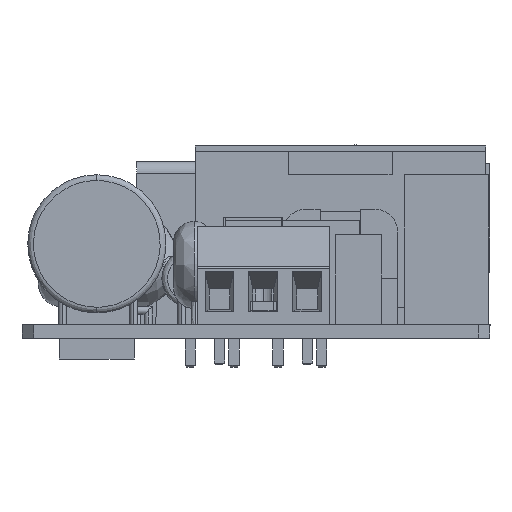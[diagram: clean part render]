
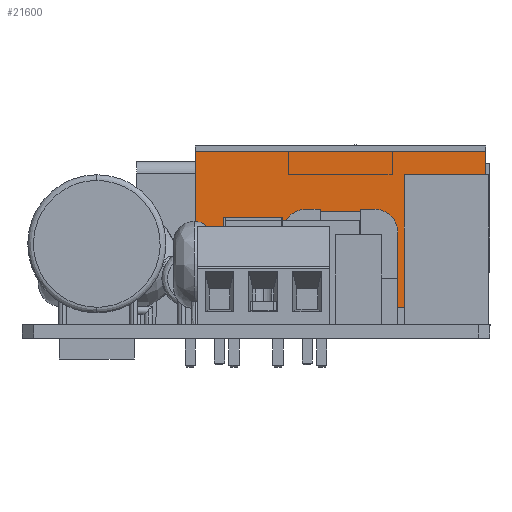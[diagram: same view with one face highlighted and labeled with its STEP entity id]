
A CAD part, left-side view. The second image highlights one B-rep face of the part: STEP entity #21600.
In plain terms, the highlighted planar face has unit normal (-1, 0, 0).
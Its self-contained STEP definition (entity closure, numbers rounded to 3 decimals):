
#1462 = CARTESIAN_POINT ( 'NONE',  ( 72.544, 86.568, 2.7 ) ) ;
#5110 = DIRECTION ( 'NONE',  ( 0., 0., -1. ) ) ;
#6234 = CARTESIAN_POINT ( 'NONE',  ( 72.544, 61.368, 2.7 ) ) ;
#10114 = DIRECTION ( 'NONE',  ( 0., 1., 0. ) ) ;
#10652 = FACE_OUTER_BOUND ( 'NONE', #26150, .T. ) ;
#15611 = LINE ( 'NONE', #17959, #48399 ) ;
#15742 = EDGE_CURVE ( 'NONE', #35937, #47777, #48478, .T. ) ;
#17017 = CARTESIAN_POINT ( 'NONE',  ( 72.544, 61.368, 2.7 ) ) ;
#17959 = CARTESIAN_POINT ( 'NONE',  ( 72.544, 86.568, 2.7 ) ) ;
#18601 = PLANE ( 'NONE',  #31896 ) ;
#20723 = CARTESIAN_POINT ( 'NONE',  ( 72.544, 61.368, 16.2 ) ) ;
#21434 = DIRECTION ( 'NONE',  ( 0., -1., 0. ) ) ;
#21600 = ADVANCED_FACE ( 'NONE', ( #10652 ), #18601, .T. ) ;
#22058 = ORIENTED_EDGE ( 'NONE', *, *, #22902, .F. ) ;
#22902 = EDGE_CURVE ( 'NONE', #28115, #35937, #15611, .T. ) ;
#24088 = VECTOR ( 'NONE', #10114, 1000. ) ;
#26150 = EDGE_LOOP ( 'NONE', ( #39956, #38472, #26409, #22058 ) ) ;
#26409 = ORIENTED_EDGE ( 'NONE', *, *, #15742, .F. ) ;
#28115 = VERTEX_POINT ( 'NONE', #34635 ) ;
#30155 = EDGE_CURVE ( 'NONE', #50441, #28115, #45485, .T. ) ;
#31264 = DIRECTION ( 'NONE',  ( -1., 0., 0. ) ) ;
#31896 = AXIS2_PLACEMENT_3D ( 'NONE', #6234, #31264, #39695 ) ;
#34635 = CARTESIAN_POINT ( 'NONE',  ( 72.544, 86.568, 2.7 ) ) ;
#35937 = VERTEX_POINT ( 'NONE', #51125 ) ;
#38472 = ORIENTED_EDGE ( 'NONE', *, *, #52227, .F. ) ;
#39079 = DIRECTION ( 'NONE',  ( 0., 0., 1. ) ) ;
#39695 = DIRECTION ( 'NONE',  ( 0., 0., 1. ) ) ;
#39956 = ORIENTED_EDGE ( 'NONE', *, *, #30155, .F. ) ;
#41785 = CARTESIAN_POINT ( 'NONE',  ( 72.544, 61.368, 2.7 ) ) ;
#44093 = VECTOR ( 'NONE', #21434, 1000. ) ;
#45231 = VECTOR ( 'NONE', #5110, 1000. ) ;
#45485 = LINE ( 'NONE', #1462, #24088 ) ;
#45719 = CARTESIAN_POINT ( 'NONE',  ( 72.544, 61.468, 16.2 ) ) ;
#47777 = VERTEX_POINT ( 'NONE', #20723 ) ;
#48399 = VECTOR ( 'NONE', #39079, 1000. ) ;
#48478 = LINE ( 'NONE', #45719, #44093 ) ;
#50441 = VERTEX_POINT ( 'NONE', #17017 ) ;
#51125 = CARTESIAN_POINT ( 'NONE',  ( 72.544, 86.568, 16.2 ) ) ;
#51581 = LINE ( 'NONE', #41785, #45231 ) ;
#52227 = EDGE_CURVE ( 'NONE', #47777, #50441, #51581, .T. ) ;
